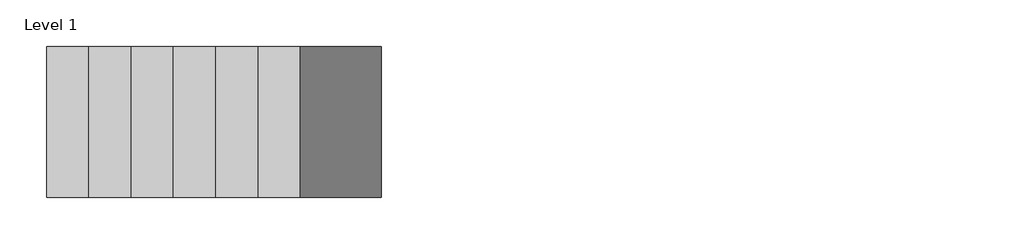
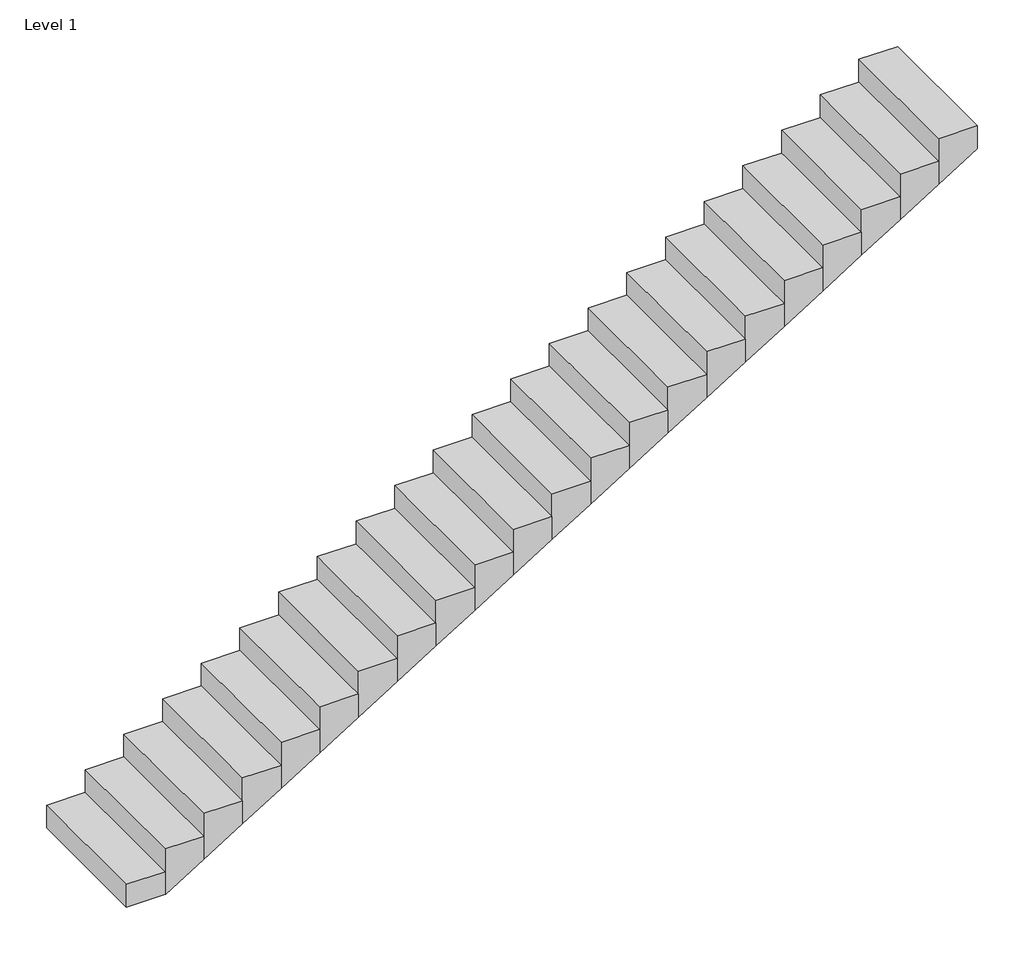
# One storey: 1 stair flight.
"""IFC4 building model written with IfcOpenShell, lengths in millimetres."""

from ifc_helpers import new_model, si_unit, origin, place, context, project, spatial, faceted_brep, element, save

model = new_model("IFC4")

# Units and contexts
model_context = context("Model", 3, world=origin())
ifc_project = project(units=[si_unit("LENGTHUNIT", "METRE", prefix="MILLI")], contexts=[model_context])

# Site, building, storey
site = spatial("IfcSite", under=ifc_project)
building = spatial("IfcBuilding", under=site)
storey = spatial("IfcBuildingStorey", under=building, Name="Level 1", Elevation=0.0)

# Stair flight
placement = place(None, origin())
element("IfcStairFlight", 1, ObjectType="150mm Depth", at=placement, inside=storey, context=model_context, shape_type="Brep", body=[
    faceted_brep([(-28965.3309797, -2573.7983603, 173.9130435), (-29245.3309797, -2573.7983603, 173.9130435), (-29245.3309797, -3573.7983603, 173.9130435), (-28965.3309797, -3573.7983603, 173.9130435), (-28965.3309797, -2573.7983603, 0.0), (-29245.3309797, -2573.7983603, 0.0), (-29245.3309797, -3573.7983603, 0.0), (-28965.3309797, -3573.7983603, 0.0), (-28685.3309797, -2573.7983603, 347.826087), (-28965.3309797, -2573.7983603, 347.826087), (-28965.3309797, -3573.7983603, 347.826087), (-28685.3309797, -3573.7983603, 347.826087), (-28685.3309797, -2573.7983603, 171.2468677), (-28961.0384368, -2573.7983603, 0.0), (-28961.0384368, -3573.7983603, 0.0), (-28685.3309797, -3573.7983603, 171.2468677), (-28405.3309797, -2573.7983603, 521.7391304), (-28685.3309797, -2573.7983603, 521.7391304), (-28685.3309797, -3573.7983603, 521.7391304), (-28405.3309797, -3573.7983603, 521.7391304), (-28405.3309797, -2573.7983603, 345.1599112), (-28405.3309797, -3573.7983603, 345.1599112), (-28125.3309797, -2573.7983603, 695.6521739), (-28405.3309797, -2573.7983603, 695.6521739), (-28405.3309797, -3573.7983603, 695.6521739), (-28125.3309797, -3573.7983603, 695.6521739), (-28125.3309797, -2573.7983603, 519.0729547), (-28125.3309797, -3573.7983603, 519.0729547), (-27845.3309797, -2573.7983603, 869.5652174), (-28125.3309797, -2573.7983603, 869.5652174), (-28125.3309797, -3573.7983603, 869.5652174), (-27845.3309797, -3573.7983603, 869.5652174), (-27845.3309797, -2573.7983603, 692.9859981), (-27845.3309797, -3573.7983603, 692.9859981), (-27565.3309797, -2573.7983603, 1043.4782609), (-27845.3309797, -2573.7983603, 1043.4782609), (-27845.3309797, -3573.7983603, 1043.4782609), (-27565.3309797, -3573.7983603, 1043.4782609), (-27565.3309797, -2573.7983603, 866.8990416), (-27565.3309797, -3573.7983603, 866.8990416), (-27285.3309797, -2573.7983603, 1217.3913043), (-27565.3309797, -2573.7983603, 1217.3913043), (-27565.3309797, -3573.7983603, 1217.3913043), (-27285.3309797, -3573.7983603, 1217.3913043), (-27285.3309797, -2573.7983603, 1040.8120851), (-27285.3309797, -3573.7983603, 1040.8120851), (-27005.3309797, -2573.7983603, 1391.3043478), (-27285.3309797, -2573.7983603, 1391.3043478), (-27285.3309797, -3573.7983603, 1391.3043478), (-27005.3309797, -3573.7983603, 1391.3043478), (-27005.3309797, -2573.7983603, 1214.7251286), (-27005.3309797, -3573.7983603, 1214.7251286), (-26725.3309797, -2573.7983603, 1565.2173913), (-27005.3309797, -2573.7983603, 1565.2173913), (-27005.3309797, -3573.7983603, 1565.2173913), (-26725.3309797, -3573.7983603, 1565.2173913), (-26725.3309797, -2573.7983603, 1388.6381721), (-26725.3309797, -3573.7983603, 1388.6381721), (-26445.3309797, -2573.7983603, 1739.1304348), (-26725.3309797, -2573.7983603, 1739.1304348), (-26725.3309797, -3573.7983603, 1739.1304348), (-26445.3309797, -3573.7983603, 1739.1304348), (-26445.3309797, -2573.7983603, 1562.5512155), (-26445.3309797, -3573.7983603, 1562.5512155), (-26165.3309797, -2573.7983603, 1913.0434783), (-26445.3309797, -2573.7983603, 1913.0434783), (-26445.3309797, -3573.7983603, 1913.0434783), (-26165.3309797, -3573.7983603, 1913.0434783), (-26165.3309797, -2573.7983603, 1736.464259), (-26165.3309797, -3573.7983603, 1736.464259), (-25885.3309797, -2573.7983603, 2086.9565217), (-26165.3309797, -2573.7983603, 2086.9565217), (-26165.3309797, -3573.7983603, 2086.9565217), (-25885.3309797, -3573.7983603, 2086.9565217), (-25885.3309797, -2573.7983603, 1910.3773025), (-25885.3309797, -3573.7983603, 1910.3773025), (-25605.3309797, -2573.7983603, 2260.8695652), (-25885.3309797, -2573.7983603, 2260.8695652), (-25885.3309797, -3573.7983603, 2260.8695652), (-25605.3309797, -3573.7983603, 2260.8695652), (-25605.3309797, -2573.7983603, 2084.290346), (-25605.3309797, -3573.7983603, 2084.290346), (-25325.3309797, -2573.7983603, 2434.7826087), (-25605.3309797, -2573.7983603, 2434.7826087), (-25605.3309797, -3573.7983603, 2434.7826087), (-25325.3309797, -3573.7983603, 2434.7826087), (-25325.3309797, -2573.7983603, 2258.2033894), (-25325.3309797, -3573.7983603, 2258.2033894), (-25045.3309797, -2573.7983603, 2608.6956522), (-25325.3309797, -2573.7983603, 2608.6956522), (-25325.3309797, -3573.7983603, 2608.6956522), (-25045.3309797, -3573.7983603, 2608.6956522), (-25045.3309797, -2573.7983603, 2432.1164329), (-25045.3309797, -3573.7983603, 2432.1164329), (-24765.3309797, -2573.7983603, 2782.6086957), (-25045.3309797, -2573.7983603, 2782.6086957), (-25045.3309797, -3573.7983603, 2782.6086957), (-24765.3309797, -3573.7983603, 2782.6086957), (-24765.3309797, -2573.7983603, 2606.0294764), (-24765.3309797, -3573.7983603, 2606.0294764), (-24485.3309797, -2573.7983603, 2956.5217391), (-24765.3309797, -2573.7983603, 2956.5217391), (-24765.3309797, -3573.7983603, 2956.5217391), (-24485.3309797, -3573.7983603, 2956.5217391), (-24485.3309797, -2573.7983603, 2779.9425199), (-24485.3309797, -3573.7983603, 2779.9425199), (-24205.3309797, -2573.7983603, 3130.4347826), (-24485.3309797, -2573.7983603, 3130.4347826), (-24485.3309797, -3573.7983603, 3130.4347826), (-24205.3309797, -3573.7983603, 3130.4347826), (-24205.3309797, -2573.7983603, 2953.8555634), (-24205.3309797, -3573.7983603, 2953.8555634), (-23925.3309797, -2573.7983603, 3304.3478261), (-24205.3309797, -2573.7983603, 3304.3478261), (-24205.3309797, -3573.7983603, 3304.3478261), (-23925.3309797, -3573.7983603, 3304.3478261), (-23925.3309797, -2573.7983603, 3127.7686068), (-23925.3309797, -3573.7983603, 3127.7686068), (-23645.3309797, -2573.7983603, 3478.2608696), (-23925.3309797, -2573.7983603, 3478.2608696), (-23925.3309797, -3573.7983603, 3478.2608696), (-23645.3309797, -3573.7983603, 3478.2608696), (-23645.3309797, -2573.7983603, 3301.6816503), (-23645.3309797, -3573.7983603, 3301.6816503), (-23365.3309797, -2573.7983603, 3652.173913), (-23645.3309797, -2573.7983603, 3652.173913), (-23645.3309797, -3573.7983603, 3652.173913), (-23365.3309797, -3573.7983603, 3652.173913), (-23365.3309797, -2573.7983603, 3475.5946938), (-23365.3309797, -3573.7983603, 3475.5946938), (-23085.3309797, -2573.7983603, 3826.0869565), (-23365.3309797, -2573.7983603, 3826.0869565), (-23365.3309797, -3573.7983603, 3826.0869565), (-23085.3309797, -3573.7983603, 3826.0869565), (-23085.3309797, -2573.7983603, 3649.5077373), (-23085.3309797, -3573.7983603, 3649.5077373)], [[[0, 1, 2, 3]], [[1, 0, 4, 5]], [[2, 1, 5, 6]], [[3, 2, 6, 7]], [[8, 9, 10, 11]], [[4, 0, 9, 8, 12, 13]], [[0, 3, 10, 9]], [[3, 7, 14, 15, 11, 10]], [[16, 17, 18, 19]], [[17, 16, 20, 12, 8]], [[8, 11, 18, 17]], [[19, 18, 11, 15, 21]], [[22, 23, 24, 25]], [[23, 22, 26, 20, 16]], [[16, 19, 24, 23]], [[25, 24, 19, 21, 27]], [[28, 29, 30, 31]], [[29, 28, 32, 26, 22]], [[22, 25, 30, 29]], [[31, 30, 25, 27, 33]], [[34, 35, 36, 37]], [[35, 34, 38, 32, 28]], [[28, 31, 36, 35]], [[37, 36, 31, 33, 39]], [[40, 41, 42, 43]], [[41, 40, 44, 38, 34]], [[34, 37, 42, 41]], [[43, 42, 37, 39, 45]], [[46, 47, 48, 49]], [[47, 46, 50, 44, 40]], [[40, 43, 48, 47]], [[49, 48, 43, 45, 51]], [[52, 53, 54, 55]], [[53, 52, 56, 50, 46]], [[46, 49, 54, 53]], [[55, 54, 49, 51, 57]], [[58, 59, 60, 61]], [[59, 58, 62, 56, 52]], [[52, 55, 60, 59]], [[61, 60, 55, 57, 63]], [[64, 65, 66, 67]], [[65, 64, 68, 62, 58]], [[58, 61, 66, 65]], [[67, 66, 61, 63, 69]], [[70, 71, 72, 73]], [[71, 70, 74, 68, 64]], [[64, 67, 72, 71]], [[73, 72, 67, 69, 75]], [[76, 77, 78, 79]], [[77, 76, 80, 74, 70]], [[70, 73, 78, 77]], [[79, 78, 73, 75, 81]], [[82, 83, 84, 85]], [[83, 82, 86, 80, 76]], [[76, 79, 84, 83]], [[85, 84, 79, 81, 87]], [[88, 89, 90, 91]], [[89, 88, 92, 86, 82]], [[82, 85, 90, 89]], [[91, 90, 85, 87, 93]], [[94, 95, 96, 97]], [[95, 94, 98, 92, 88]], [[88, 91, 96, 95]], [[97, 96, 91, 93, 99]], [[100, 101, 102, 103]], [[101, 100, 104, 98, 94]], [[94, 97, 102, 101]], [[103, 102, 97, 99, 105]], [[106, 107, 108, 109]], [[107, 106, 110, 104, 100]], [[100, 103, 108, 107]], [[109, 108, 103, 105, 111]], [[112, 113, 114, 115]], [[113, 112, 116, 110, 106]], [[106, 109, 114, 113]], [[115, 114, 109, 111, 117]], [[118, 119, 120, 121]], [[119, 118, 122, 116, 112]], [[112, 115, 120, 119]], [[121, 120, 115, 117, 123]], [[124, 125, 126, 127]], [[125, 124, 128, 122, 118]], [[118, 121, 126, 125]], [[127, 126, 121, 123, 129]], [[130, 131, 132, 133]], [[131, 130, 134, 128, 124]], [[124, 127, 132, 131]], [[133, 132, 127, 129, 135]], [[130, 133, 135, 134]], [[5, 4, 13, 14, 7, 6]], [[14, 13, 12, 20, 26, 32, 38, 44, 50, 56, 62, 68, 74, 80, 86, 92, 98, 104, 110, 116, 122, 128, 134, 135, 129, 123, 117, 111, 105, 99, 93, 87, 81, 75, 69, 63, 57, 51, 45, 39, 33, 27, 21, 15]]]),
])

save(model, "model.ifc")
